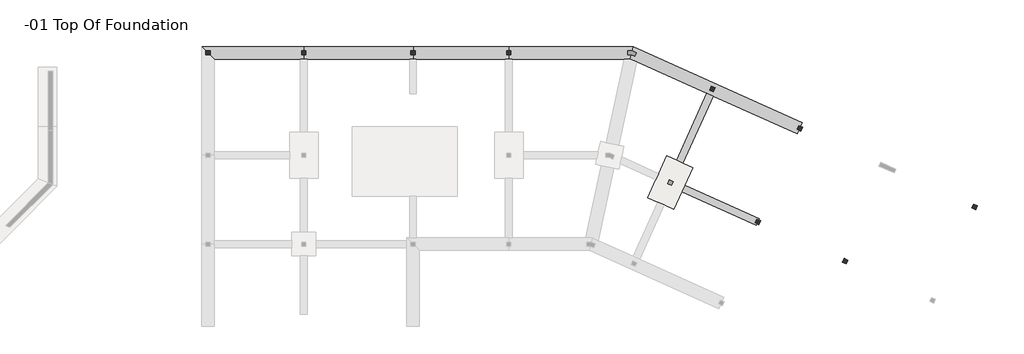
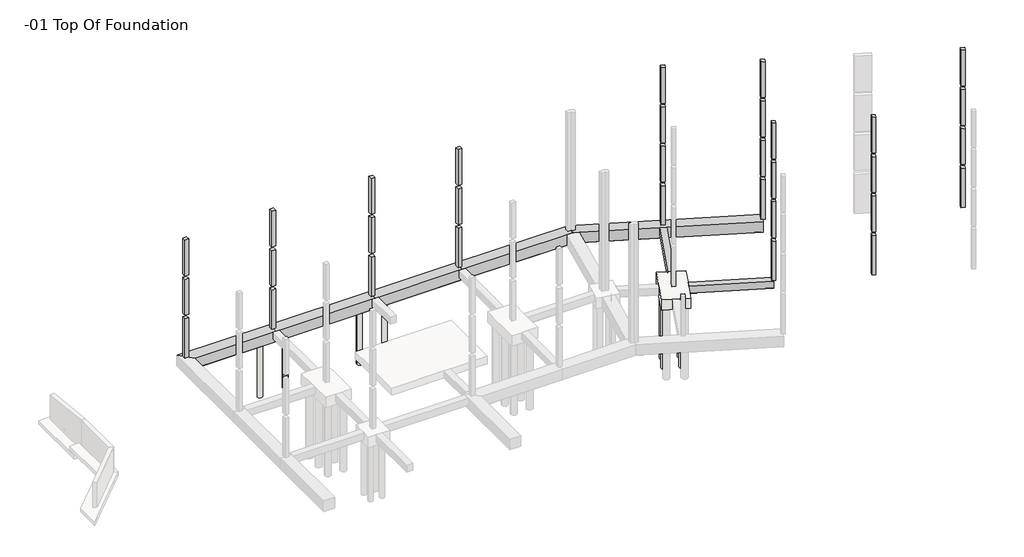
# One storey, part 4 of 4: 9 columns, 9 slabs, 7 beams.
"""IFC4 building model written with IfcOpenShell, lengths in millimetres."""

from ifc_helpers import new_model, si_unit, point, frame, frame_2d, origin, place, context, project, spatial, polyline, circle_curve, trimmed, segment, composite_curve, outline, extrude, faceted_brep, element, save
from ifc_brep_helpers import plane_surface, revolved_surface, advanced_brep

model = new_model("IFC4")

# Units and contexts
model_context = context("Model", 3, world=origin())
ifc_project = project(units=[si_unit("LENGTHUNIT", "METRE", prefix="MILLI")], contexts=[model_context])

# Site, building, storey
site = spatial("IfcSite", under=ifc_project)
building = spatial("IfcBuilding", under=site)
storey = spatial("IfcBuildingStorey", under=building, Name="-01 Top Of Foundation", Elevation=-304.8)

# Beams
placement = place(None, origin())
element("IfcBeam", 1, ObjectType="Ring Beam : 12 x 24", at=placement, inside=storey, context=model_context, shape_type="SweptSolid", body=[
    extrude(outline(polyline([(0.0, 787.4000001), (0.0, 1295.4), (584.2, 1295.4), (609.6, 1270.0), (609.6, 812.8000001), (584.2, 787.4000001), (0.0, 787.4000001)])), frame((35458.8390181, -8392.9653659, -304.8), z_axis=(0.40975609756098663, 0.9121951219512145, 0.0), x_axis=(0.0, 0.0, -1.0)), (0.0, 0.0, 1.0), 5372.1),
])
element("IfcBeam", 2, ObjectType="Ring Beam : 12 x 24", at=placement, inside=storey, context=model_context, shape_type="SweptSolid", body=[
    extrude(outline(polyline([(-7200.8999999, 1066.8), (-6692.9, 1066.8), (-6692.9, 482.6), (-6718.3, 457.2), (-7175.4999999, 457.2), (-7200.8999999, 482.6), (-7200.8999999, 1066.8)])), frame((37370.2819449, -18704.9317073, -1371.6), z_axis=(-0.9121951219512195, 0.40975609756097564, 0.0), x_axis=(-0.40975609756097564, -0.9121951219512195, 0.0)), (0.0, 0.0, 1.0), 5969.0),
])
element("IfcBeam", 3, ObjectType="Ring Beam : 16 x 32", at=placement, inside=storey, context=model_context, shape_type="AdvancedBrep", body=[
    advanced_brep(
    [(7010.4, 457.2, -304.8), (-457.2, 457.2, -304.8), (457.2, -457.2, -304.8), (6756.4, -457.2, -304.8), (7010.4, -457.2, -304.8), (457.2, -457.2, -1193.8), (7010.4, -457.2, -1193.8), (431.8, -431.8, -1219.2), (7010.4, -431.8, -1219.2), (-431.8, 431.8, -1219.2), (7010.4, 431.8, -1219.2), (7010.4, 203.2, -1219.2), (6807.2, 0.0, -1219.2), (7010.4, -203.2, -1219.2), (5791.2, 0.0, -1219.2), (6197.6, 0.0, -1219.2), (-457.2, 457.2, -1193.8), (7010.4, 457.2, -1193.8), (7010.4, -203.2, -762.0), (7010.4, 203.2, -762.0), (6807.2, 0.0, -762.0), (6197.6, 0.0, -762.0), (5791.2, 0.0, -762.0)],
    [
        (0, 1),
        (1, 2),
        (2, 3),
        (3, 4),
        (4, 0),
        (2, 5),
        (5, 6),
        (6, 4),
        (5, 7),
        (7, 8),
        (8, 6),
        (7, 9),
        (9, 10),
        (10, 11),
        (11, 12, circle_curve(frame((7010.4, 0.0, -1219.2), z_axis=(0.0, 0.0, 1.0), x_axis=(1.0, 0.0, 0.0)), 203.2)),
        (12, 13, circle_curve(frame((7010.4, 0.0, -1219.2), z_axis=(0.0, 0.0, 1.0), x_axis=(1.0, 0.0, 0.0)), 203.2)),
        (13, 8),
        (14, 15, circle_curve(frame((5994.4, 0.0, -1219.2), z_axis=(0.0, 0.0, 1.0), x_axis=(1.0, 0.0, 0.0)), 203.2)),
        (15, 14, circle_curve(frame((5994.4, 0.0, -1219.2), z_axis=(0.0, 0.0, 1.0), x_axis=(1.0, 0.0, 0.0)), 203.2)),
        (9, 16),
        (16, 17),
        (17, 10),
        (0, 17),
        (16, 1),
        (13, 18),
        (18, 19),
        (19, 11),
        (20, 19, circle_curve(frame((7010.4, 0.0, -762.0), z_axis=(0.0, 0.0, -1.0), x_axis=(1.0, 0.0, 0.0)), 203.2)),
        (18, 20, circle_curve(frame((7010.4, 0.0, -762.0), z_axis=(0.0, 0.0, -1.0), x_axis=(1.0, 0.0, 0.0)), 203.2)),
        (12, 20),
        (21, 22, circle_curve(frame((5994.4, 0.0, -762.0), z_axis=(0.0, 0.0, -1.0), x_axis=(1.0, 0.0, 0.0)), 203.2)),
        (22, 21, circle_curve(frame((5994.4, 0.0, -762.0), z_axis=(0.0, 0.0, -1.0), x_axis=(1.0, 0.0, 0.0)), 203.2)),
        (21, 15),
        (14, 22),
    ],
    [
        plane_surface(frame((6743.7, 457.2, -304.8), z_axis=(0.0, 0.0, 1.0), x_axis=(-1.0, 0.0, 0.0))),
        plane_surface(frame((6743.7, -457.2, -304.8), z_axis=(0.0, -1.0, 0.0), x_axis=(-1.0, 0.0, 0.0))),
        plane_surface(frame((6743.7, -457.2, -1193.8), z_axis=(0.0, -0.707106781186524, -0.7071067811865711), x_axis=(-1.0, 0.0, 0.0))),
        plane_surface(frame((6743.7, -431.8, -1219.2), z_axis=(0.0, 0.0, -1.0), x_axis=(-1.0, 0.0, 0.0))),
        plane_surface(frame((6743.7, 431.8, -1219.2), z_axis=(0.0, 0.7071067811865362, -0.7071067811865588), x_axis=(-1.0, 0.0, 0.0))),
        plane_surface(frame((6743.7, 457.2, -1193.8), z_axis=(0.0, 1.0, 0.0), x_axis=(-1.0, 0.0, 0.0))),
        plane_surface(frame((457.2, -457.2, -304.8), z_axis=(-0.7071067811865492, -0.7071067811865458, 0.0), x_axis=(0.7071067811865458, -0.7071067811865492, 0.0))),
        plane_surface(frame((7010.4, 0.0, -304.8), z_axis=(1.0, 0.0, 0.0), x_axis=(0.0, 1.0, 0.0))),
        plane_surface(frame((7213.6, 0.0, -762.0), z_axis=(0.0, 0.0, -1.0), x_axis=(0.0, 1.0, 0.0))),
        revolved_surface(polyline([(7213.599999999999, 0.0, -762.0), (7213.599999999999, 0.0, -1219.1999999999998)]), (7010.4, 0.0, -8229.6), (0.0, 0.0, 1.0)),
        plane_surface(frame((6197.6, 0.0, -762.0), z_axis=(0.0, 0.0, -1.0), x_axis=(0.0, 1.0, 0.0))),
        revolved_surface(polyline([(6197.599999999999, 0.0, -762.0), (6197.599999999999, 0.0, -1219.1999999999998)]), (5994.4, 0.0, -5791.2), (0.0, 0.0, 1.0)),
    ],
    [
        (0, [[1, 2, 3, 4, 5]]),
        (1, [[-4, -3, 6, 7, 8]]),
        (2, [[-7, 9, 10, 11]]),
        (3, [[-10, 12, 13, 14, 15, 16, 17], [18, 19]]),
        (4, [[-13, 20, 21, 22]]),
        (5, [[-1, 23, -21, 24]]),
        (6, [[-24, -20, -12, -9, -6, -2]]),
        (7, [[-5, -8, -11, -17, 25, 26, 27, -14, -22, -23]]),
        (8, [[28, -26, 29]]),
        (9, [[-29, -25, -16, 30]]),
        (9, [[-28, -30, -15, -27]]),
        (10, [[31, 32]]),
        (11, [[-31, 33, -18, 34]]),
        (11, [[-32, -34, -19, -33]]),
    ],
),
])
element("IfcBeam", 4, ObjectType="Ring Beam : 16 x 32", at=placement, inside=storey, context=model_context, shape_type="AdvancedBrep", body=[
    advanced_brep(
    [(22009.1, 457.2, -304.8), (14998.7, 457.2, -304.8), (14998.7, -457.2, -304.8), (15252.7, -457.2, -304.8), (21755.1, -457.2, -304.8), (22009.1, -457.2, -304.8), (14998.7, -457.2, -1193.8), (22009.1, -457.2, -1193.8), (14998.7, -431.8, -1219.2), (22009.1, -431.8, -1219.2), (14998.7, -203.2, -1219.2), (15201.9, 0.0, -1219.2), (14998.7, 203.2, -1219.2), (14998.7, 431.8, -1219.2), (22009.1, 431.8, -1219.2), (15811.5, 0.0, -1219.2), (16217.9, 0.0, -1219.2), (14998.7, 457.2, -1193.8), (22009.1, 457.2, -1193.8), (14998.7, 203.2, -762.0), (14998.7, -203.2, -762.0), (15201.9, 0.0, -762.0), (16217.9, 0.0, -762.0), (15811.5, 0.0, -762.0)],
    [
        (0, 1),
        (1, 2),
        (2, 3),
        (3, 4),
        (4, 5),
        (5, 0),
        (2, 6),
        (6, 7),
        (7, 5),
        (6, 8),
        (8, 9),
        (9, 7),
        (8, 10),
        (10, 11, circle_curve(frame((14998.7, 0.0, -1219.2), z_axis=(0.0, 0.0, 1.0), x_axis=(1.0, 0.0, 0.0)), 203.2)),
        (11, 12, circle_curve(frame((14998.7, 0.0, -1219.2), z_axis=(0.0, 0.0, 1.0), x_axis=(1.0, 0.0, 0.0)), 203.2)),
        (12, 13),
        (13, 14),
        (14, 9),
        (15, 16, circle_curve(frame((16014.7, 0.0, -1219.2), z_axis=(0.0, 0.0, 1.0), x_axis=(1.0, 0.0, 0.0)), 203.2)),
        (16, 15, circle_curve(frame((16014.7, 0.0, -1219.2), z_axis=(0.0, 0.0, 1.0), x_axis=(1.0, 0.0, 0.0)), 203.2)),
        (13, 17),
        (17, 18),
        (18, 14),
        (0, 18),
        (17, 1),
        (12, 19),
        (19, 20),
        (20, 10),
        (19, 21, circle_curve(frame((14998.7, 0.0, -762.0), z_axis=(0.0, 0.0, -1.0), x_axis=(1.0, 0.0, 0.0)), 203.2)),
        (21, 20, circle_curve(frame((14998.7, 0.0, -762.0), z_axis=(0.0, 0.0, -1.0), x_axis=(1.0, 0.0, 0.0)), 203.2)),
        (21, 11),
        (22, 23, circle_curve(frame((16014.7, 0.0, -762.0), z_axis=(0.0, 0.0, -1.0), x_axis=(1.0, 0.0, 0.0)), 203.2)),
        (23, 22, circle_curve(frame((16014.7, 0.0, -762.0), z_axis=(0.0, 0.0, -1.0), x_axis=(1.0, 0.0, 0.0)), 203.2)),
        (22, 16),
        (15, 23),
    ],
    [
        plane_surface(frame((21742.4, 457.2, -304.8), z_axis=(0.0, 0.0, 1.0), x_axis=(-1.0, 0.0, 0.0))),
        plane_surface(frame((21742.4, -457.2, -304.8), z_axis=(0.0, -1.0, 0.0), x_axis=(-1.0, 0.0, 0.0))),
        plane_surface(frame((21742.4, -457.2, -1193.8), z_axis=(0.0, -0.707106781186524, -0.7071067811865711), x_axis=(-1.0, 0.0, 0.0))),
        plane_surface(frame((21742.4, -431.8, -1219.2), z_axis=(0.0, 0.0, -1.0), x_axis=(-1.0, 0.0, 0.0))),
        plane_surface(frame((21742.4, 431.8, -1219.2), z_axis=(0.0, 0.7071067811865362, -0.7071067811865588), x_axis=(-1.0, 0.0, 0.0))),
        plane_surface(frame((21742.4, 457.2, -1193.8), z_axis=(0.0, 1.0, 0.0), x_axis=(-1.0, 0.0, 0.0))),
        plane_surface(frame((14998.7, 0.0, -304.8), z_axis=(-1.0, 0.0, 0.0), x_axis=(0.0, -1.0, 0.0))),
        plane_surface(frame((22009.1, 0.0, -304.8), z_axis=(1.0, 0.0, 0.0), x_axis=(0.0, 1.0, 0.0))),
        plane_surface(frame((15201.9, 0.0, -762.0), z_axis=(0.0, 0.0, -1.0), x_axis=(0.0, 1.0, 0.0))),
        revolved_surface(polyline([(15201.900000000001, 0.0, -762.0), (15201.900000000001, 0.0, -1219.1999999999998)]), (14998.7, 0.0, -8229.6), (0.0, 0.0, 1.0)),
        plane_surface(frame((16217.9, 0.0, -762.0), z_axis=(0.0, 0.0, -1.0), x_axis=(0.0, 1.0, 0.0))),
        revolved_surface(polyline([(16217.900000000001, 0.0, -762.0), (16217.900000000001, 0.0, -1219.1999999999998)]), (16014.7, 0.0, -5791.2), (0.0, 0.0, 1.0)),
    ],
    [
        (0, [[1, 2, 3, 4, 5, 6]]),
        (1, [[-5, -4, -3, 7, 8, 9]]),
        (2, [[-8, 10, 11, 12]]),
        (3, [[-11, 13, 14, 15, 16, 17, 18], [19, 20]]),
        (4, [[-17, 21, 22, 23]]),
        (5, [[-1, 24, -22, 25]]),
        (6, [[-25, -21, -16, 26, 27, 28, -13, -10, -7, -2]]),
        (7, [[-6, -9, -12, -18, -23, -24]]),
        (8, [[29, 30, -27]]),
        (9, [[-30, 31, -14, -28]]),
        (9, [[-29, -26, -15, -31]]),
        (10, [[32, 33]]),
        (11, [[-32, 34, -19, 35]]),
        (11, [[-33, -35, -20, -34]]),
    ],
),
])
element("IfcBeam", 5, ObjectType="Ring Beam : 16 x 32", at=placement, inside=storey, context=model_context, shape_type="Brep", body=[
    faceted_brep([(31098.7387393, 457.2, -304.8), (31033.4244536, 152.4, -304.8), (30968.1131019, -152.386308, -304.8), (30902.7958822, -457.2, -304.8), (31345.5946226, -656.104247, -304.8), (36478.4321888, -2961.7639024, -304.8), (36941.8273107, -3169.92, -304.8), (43104.9824327, -5938.3960976, -304.8), (43375.5853595, -5335.982439, -304.8), (43479.6634083, -5104.284878, -304.8), (30902.7958822, -457.2, -1193.8), (31345.5946226, -656.104247, -1193.8), (43104.9824327, -5938.3960976, -1193.8), (30908.2387393, -431.8, -1219.2), (31327.3417353, -620.0601693, -1219.2), (43115.3902376, -5915.2263415, -1219.2), (31093.2958822, 431.8, -1219.2), (43469.2556034, -5127.4546341, -1219.2), (31098.7387393, 457.2, -1193.8), (43479.6634083, -5104.284878, -1193.8)], [[[0, 1, 2, 3, 4, 5, 6, 7, 8, 9]], [[3, 10, 11, 12, 7, 6, 5, 4]], [[10, 13, 14, 15, 12, 11]], [[13, 16, 17, 15, 14]], [[16, 18, 19, 17]], [[18, 0, 9, 19]], [[0, 18, 16, 13, 10, 3, 2, 1]], [[7, 12, 15, 17, 19, 9, 8]]]),
])
element("IfcBeam", 6, ObjectType="Ring Beam : 16 x 32", at=placement, inside=storey, context=model_context, shape_type="AdvancedBrep", body=[
    advanced_brep(
    [(14998.7, 457.2, -304.8), (7010.4, 457.2, -304.8), (7010.4, -457.2, -304.8), (7264.4, -457.2, -304.8), (14744.7, -457.2, -304.8), (14998.7, -457.2, -304.8), (7010.4, -457.2, -1193.8), (14998.7, -457.2, -1193.8), (7010.4, -431.8, -1219.2), (14998.7, -431.8, -1219.2), (7010.4, -203.2, -1219.2), (7213.6, 0.0, -1219.2), (7010.4, 203.2, -1219.2), (7010.4, 431.8, -1219.2), (14998.7, 431.8, -1219.2), (14998.7, 203.2, -1219.2), (14795.5, 0.0, -1219.2), (14998.7, -203.2, -1219.2), (13779.5, 0.0, -1219.2), (14185.9, 0.0, -1219.2), (7823.2, 0.0, -1219.2), (8229.6, 0.0, -1219.2), (7010.4, 457.2, -1193.8), (14998.7, 457.2, -1193.8), (14998.7, -203.2, -762.0), (14998.7, 203.2, -762.0), (7010.4, 203.2, -762.0), (7010.4, -203.2, -762.0), (14795.5, 0.0, -762.0), (14185.9, 0.0, -762.0), (13779.5, 0.0, -762.0), (7213.6, 0.0, -762.0), (8229.6, 0.0, -762.0), (7823.2, 0.0, -762.0)],
    [
        (0, 1),
        (1, 2),
        (2, 3),
        (3, 4),
        (4, 5),
        (5, 0),
        (2, 6),
        (6, 7),
        (7, 5),
        (6, 8),
        (8, 9),
        (9, 7),
        (8, 10),
        (10, 11, circle_curve(frame((7010.4, 0.0, -1219.2), z_axis=(0.0, 0.0, 1.0), x_axis=(1.0, 0.0, 0.0)), 203.2)),
        (11, 12, circle_curve(frame((7010.4, 0.0, -1219.2), z_axis=(0.0, 0.0, 1.0), x_axis=(1.0, 0.0, 0.0)), 203.2)),
        (12, 13),
        (13, 14),
        (14, 15),
        (15, 16, circle_curve(frame((14998.7, 0.0, -1219.2), z_axis=(0.0, 0.0, 1.0), x_axis=(1.0, 0.0, 0.0)), 203.2)),
        (16, 17, circle_curve(frame((14998.7, 0.0, -1219.2), z_axis=(0.0, 0.0, 1.0), x_axis=(1.0, 0.0, 0.0)), 203.2)),
        (17, 9),
        (18, 19, circle_curve(frame((13982.7, 0.0, -1219.2), z_axis=(0.0, 0.0, 1.0), x_axis=(1.0, 0.0, 0.0)), 203.2)),
        (19, 18, circle_curve(frame((13982.7, 0.0, -1219.2), z_axis=(0.0, 0.0, 1.0), x_axis=(1.0, 0.0, 0.0)), 203.2)),
        (20, 21, circle_curve(frame((8026.4, 0.0, -1219.2), z_axis=(0.0, 0.0, 1.0), x_axis=(1.0, 0.0, 0.0)), 203.2)),
        (21, 20, circle_curve(frame((8026.4, 0.0, -1219.2), z_axis=(0.0, 0.0, 1.0), x_axis=(1.0, 0.0, 0.0)), 203.2)),
        (13, 22),
        (22, 23),
        (23, 14),
        (0, 23),
        (22, 1),
        (17, 24),
        (24, 25),
        (25, 15),
        (12, 26),
        (26, 27),
        (27, 10),
        (28, 25, circle_curve(frame((14998.7, 0.0, -762.0), z_axis=(0.0, 0.0, -1.0), x_axis=(1.0, 0.0, 0.0)), 203.2)),
        (24, 28, circle_curve(frame((14998.7, 0.0, -762.0), z_axis=(0.0, 0.0, -1.0), x_axis=(1.0, 0.0, 0.0)), 203.2)),
        (16, 28),
        (29, 30, circle_curve(frame((13982.7, 0.0, -762.0), z_axis=(0.0, 0.0, -1.0), x_axis=(1.0, 0.0, 0.0)), 203.2)),
        (30, 29, circle_curve(frame((13982.7, 0.0, -762.0), z_axis=(0.0, 0.0, -1.0), x_axis=(1.0, 0.0, 0.0)), 203.2)),
        (29, 19),
        (18, 30),
        (26, 31, circle_curve(frame((7010.4, 0.0, -762.0), z_axis=(0.0, 0.0, -1.0), x_axis=(1.0, 0.0, 0.0)), 203.2)),
        (31, 27, circle_curve(frame((7010.4, 0.0, -762.0), z_axis=(0.0, 0.0, -1.0), x_axis=(1.0, 0.0, 0.0)), 203.2)),
        (31, 11),
        (32, 33, circle_curve(frame((8026.4, 0.0, -762.0), z_axis=(0.0, 0.0, -1.0), x_axis=(1.0, 0.0, 0.0)), 203.2)),
        (33, 32, circle_curve(frame((8026.4, 0.0, -762.0), z_axis=(0.0, 0.0, -1.0), x_axis=(1.0, 0.0, 0.0)), 203.2)),
        (32, 21),
        (20, 33),
    ],
    [
        plane_surface(frame((14732.0, 457.2, -304.8), z_axis=(0.0, 0.0, 1.0), x_axis=(-1.0, 0.0, 0.0))),
        plane_surface(frame((14732.0, -457.2, -304.8), z_axis=(0.0, -1.0, 0.0), x_axis=(-1.0, 0.0, 0.0))),
        plane_surface(frame((14732.0, -457.2, -1193.8), z_axis=(0.0, -0.707106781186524, -0.7071067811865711), x_axis=(-1.0, 0.0, 0.0))),
        plane_surface(frame((14732.0, -431.8, -1219.2), z_axis=(0.0, 0.0, -1.0), x_axis=(-1.0, 0.0, 0.0))),
        plane_surface(frame((14732.0, 431.8, -1219.2), z_axis=(0.0, 0.7071067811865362, -0.7071067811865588), x_axis=(-1.0, 0.0, 0.0))),
        plane_surface(frame((14732.0, 457.2, -1193.8), z_axis=(0.0, 1.0, 0.0), x_axis=(-1.0, 0.0, 0.0))),
        plane_surface(frame((14998.7, 0.0, -304.8), z_axis=(1.0, 0.0, 0.0), x_axis=(0.0, 1.0, 0.0))),
        plane_surface(frame((7010.4, 0.0, -304.8), z_axis=(-1.0, 0.0, 0.0), x_axis=(0.0, -1.0, 0.0))),
        plane_surface(frame((15201.9, 0.0, -762.0), z_axis=(0.0, 0.0, -1.0), x_axis=(0.0, 1.0, 0.0))),
        revolved_surface(polyline([(15201.900000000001, 0.0, -762.0), (15201.900000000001, 0.0, -1219.1999999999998)]), (14998.7, 0.0, -8229.6), (0.0, 0.0, 1.0)),
        plane_surface(frame((14185.9, 0.0, -762.0), z_axis=(0.0, 0.0, -1.0), x_axis=(0.0, 1.0, 0.0))),
        revolved_surface(polyline([(14185.900000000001, 0.0, -762.0), (14185.900000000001, 0.0, -1219.1999999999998)]), (13982.7, 0.0, -5791.2), (0.0, 0.0, 1.0)),
        plane_surface(frame((7213.6, 0.0, -762.0), z_axis=(0.0, 0.0, -1.0), x_axis=(0.0, 1.0, 0.0))),
        revolved_surface(polyline([(7213.599999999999, 0.0, -762.0), (7213.599999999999, 0.0, -1219.1999999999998)]), (7010.4, 0.0, -8229.6), (0.0, 0.0, 1.0)),
        plane_surface(frame((8229.6, 0.0, -762.0), z_axis=(0.0, 0.0, -1.0), x_axis=(0.0, 1.0, 0.0))),
        revolved_surface(polyline([(8229.6, 0.0, -762.0), (8229.6, 0.0, -1219.1999999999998)]), (8026.4, 0.0, -5791.2), (0.0, 0.0, 1.0)),
    ],
    [
        (0, [[1, 2, 3, 4, 5, 6]]),
        (1, [[-5, -4, -3, 7, 8, 9]]),
        (2, [[-8, 10, 11, 12]]),
        (3, [[-11, 13, 14, 15, 16, 17, 18, 19, 20, 21], [22, 23], [24, 25]]),
        (4, [[-17, 26, 27, 28]]),
        (5, [[-1, 29, -27, 30]]),
        (6, [[-6, -9, -12, -21, 31, 32, 33, -18, -28, -29]]),
        (7, [[-30, -26, -16, 34, 35, 36, -13, -10, -7, -2]]),
        (8, [[37, -32, 38]]),
        (9, [[-38, -31, -20, 39]]),
        (9, [[-37, -39, -19, -33]]),
        (10, [[40, 41]]),
        (11, [[-40, 42, -22, 43]]),
        (11, [[-41, -43, -23, -42]]),
        (12, [[44, 45, -35]]),
        (13, [[-45, 46, -14, -36]]),
        (13, [[-44, -34, -15, -46]]),
        (14, [[47, 48]]),
        (15, [[-47, 49, -24, 50]]),
        (15, [[-48, -50, -25, -49]]),
    ],
),
])
element("IfcBeam", 7, ObjectType="Ring Beam : 16 x 32", at=placement, inside=storey, context=model_context, shape_type="Brep", body=[
    faceted_brep([(30902.7958822, -457.2, -304.8), (31098.7387393, 457.2, -304.8), (22009.1, 457.2, -304.8), (22009.1, -457.2, -304.8), (22263.1, -457.2, -304.8), (30453.0587055, -457.2, -304.8), (30902.7958822, -457.2, -1193.8), (22009.1, -457.2, -1193.8), (30453.0587055, -457.2, -1193.8), (30908.2387393, -431.8, -1219.2), (22009.1, -431.8, -1219.2), (30484.4781809, -431.8, -1219.2), (31093.2958822, 431.8, -1219.2), (22009.1, 431.8, -1219.2), (31098.7387393, 457.2, -1193.8), (22009.1, 457.2, -1193.8)], [[[0, 1, 2, 3, 4, 5]], [[6, 0, 5, 4, 3, 7, 8]], [[9, 6, 8, 7, 10, 11]], [[12, 9, 11, 10, 13]], [[14, 12, 13, 15]], [[1, 14, 15, 2]], [[1, 0, 6, 9, 12, 14]], [[2, 15, 13, 10, 7, 3]]]),
])

# Columns
element("IfcColumn", 8, ObjectType="Concrete-Rectangular-Column : 12 x 12", at=placement, inside=storey, context=model_context, shape_type="SweptSolid", body=[
    extrude(outline(polyline([(152.4, 152.4), (152.4, -152.4), (-152.4, -152.4), (-152.4, 152.4), (152.4, 152.4)])), frame((0.0, 0.0, -304.8), z_axis=(0.0, 0.0, 1.0), x_axis=(1.0, 0.0, 0.0)), (0.0, 0.0, 1.0), 3352.8),
    extrude(outline(polyline([(152.4, 152.4), (152.4, -152.4), (-152.4, -152.4), (-152.4, 152.4), (152.4, 152.4)])), frame((0.0, 0.0, 6705.6), z_axis=(0.0, 0.0, 1.0), x_axis=(1.0, 0.0, 0.0)), (0.0, 0.0, 1.0), 3048.0),
    extrude(outline(polyline([(152.4, 152.4), (152.4, -152.4), (-152.4, -152.4), (-152.4, 152.4), (152.4, 152.4)])), frame((0.0, 0.0, 3352.8), z_axis=(0.0, 0.0, 1.0), x_axis=(1.0, 0.0, 0.0)), (0.0, 0.0, 1.0), 3048.0),
])
element("IfcColumn", 9, ObjectType="Concrete-Rectangular-Column : 12 x 12", at=placement, inside=storey, context=model_context, shape_type="SweptSolid", body=[
    extrude(outline(polyline([(7162.8, 152.4), (7162.8, -152.4), (6858.0, -152.4), (6858.0, 152.4), (7162.8, 152.4)])), frame((0.0, 0.0, -304.8), z_axis=(0.0, 0.0, 1.0), x_axis=(1.0, 0.0, 0.0)), (0.0, 0.0, 1.0), 3352.8),
    extrude(outline(polyline([(7162.8, 152.4), (7162.8, -152.4), (6858.0, -152.4), (6858.0, 152.4), (7162.8, 152.4)])), frame((0.0, 0.0, 6705.6), z_axis=(0.0, 0.0, 1.0), x_axis=(1.0, 0.0, 0.0)), (0.0, 0.0, 1.0), 3048.0),
    extrude(outline(polyline([(7162.8, 152.4), (7162.8, -152.4), (6858.0, -152.4), (6858.0, 152.4), (7162.8, 152.4)])), frame((0.0, 0.0, 3352.8), z_axis=(0.0, 0.0, 1.0), x_axis=(1.0, 0.0, 0.0)), (0.0, 0.0, 1.0), 3048.0),
])
element("IfcColumn", 10, ObjectType="Concrete-Rectangular-Column : 12 x 12", at=placement, inside=storey, context=model_context, shape_type="SweptSolid", body=[
    extrude(outline(polyline([(15151.1, 152.4), (15151.1, -152.4), (14846.3, -152.4), (14846.3, 152.4), (15151.1, 152.4)])), frame((0.0, 0.0, -304.8), z_axis=(0.0, 0.0, 1.0), x_axis=(1.0, 0.0, 0.0)), (0.0, 0.0, 1.0), 3352.8),
    extrude(outline(polyline([(15151.1, 152.4), (15151.1, -152.4), (14846.3, -152.4), (14846.3, 152.4), (15151.1, 152.4)])), frame((0.0, 0.0, 6705.6), z_axis=(0.0, 0.0, 1.0), x_axis=(1.0, 0.0, 0.0)), (0.0, 0.0, 1.0), 3048.0),
    extrude(outline(polyline([(15151.1, 152.4), (15151.1, -152.4), (14846.3, -152.4), (14846.3, 152.4), (15151.1, 152.4)])), frame((0.0, 0.0, 3352.8), z_axis=(0.0, 0.0, 1.0), x_axis=(1.0, 0.0, 0.0)), (0.0, 0.0, 1.0), 3048.0),
])
element("IfcColumn", 11, ObjectType="Concrete-Rectangular-Column : 12 x 12", at=placement, inside=storey, context=model_context, shape_type="SweptSolid", body=[
    extrude(outline(polyline([(22161.5, 152.4), (22161.5, -152.4), (21856.7, -152.4), (21856.7, 152.4), (22161.5, 152.4)])), frame((0.0, 0.0, -304.8), z_axis=(0.0, 0.0, 1.0), x_axis=(1.0, 0.0, 0.0)), (0.0, 0.0, 1.0), 3352.8),
    extrude(outline(polyline([(22161.5, 152.4), (22161.5, -152.4), (21856.7, -152.4), (21856.7, 152.4), (22161.5, 152.4)])), frame((0.0, 0.0, 6705.6), z_axis=(0.0, 0.0, 1.0), x_axis=(1.0, 0.0, 0.0)), (0.0, 0.0, 1.0), 3048.0),
    extrude(outline(polyline([(22161.5, 152.4), (22161.5, -152.4), (21856.7, -152.4), (21856.7, 152.4), (22161.5, 152.4)])), frame((0.0, 0.0, 3352.8), z_axis=(0.0, 0.0, 1.0), x_axis=(1.0, 0.0, 0.0)), (0.0, 0.0, 1.0), 3048.0),
])
element("IfcColumn", 12, ObjectType="Concrete-Rectangular-Column : 12 x 12", at=placement, inside=storey, context=model_context, shape_type="SweptSolid", body=[
    extrude(outline(polyline([(36820.8985303, -2447.3209756), (37098.9356034, -2572.2146341), (36974.0419449, -2850.2517073), (36696.0048717, -2725.3580488), (36820.8985303, -2447.3209756)])), frame((0.0, 0.0, -304.8), z_axis=(0.0, 0.0, 1.0), x_axis=(1.0, 0.0, 0.0)), (0.0, 0.0, 1.0), 3352.8),
    extrude(outline(polyline([(36820.8985303, -2447.3209756), (37098.9356034, -2572.2146341), (36974.0419449, -2850.2517073), (36696.0048717, -2725.3580488), (36820.8985303, -2447.3209756)])), frame((0.0, 0.0, 10058.4), z_axis=(0.0, 0.0, 1.0), x_axis=(1.0, 0.0, 0.0)), (0.0, 0.0, 1.0), 3048.0),
    extrude(outline(polyline([(36820.8985303, -2447.3209756), (37098.9356034, -2572.2146341), (36974.0419449, -2850.2517073), (36696.0048717, -2725.3580488), (36820.8985303, -2447.3209756)])), frame((0.0, 0.0, 3352.8), z_axis=(0.0, 0.0, 1.0), x_axis=(1.0, 0.0, 0.0)), (0.0, 0.0, 1.0), 3048.0),
    extrude(outline(polyline([(36820.8985303, -2447.3209756), (37098.9356034, -2572.2146341), (36974.0419449, -2850.2517073), (36696.0048717, -2725.3580488), (36820.8985303, -2447.3209756)])), frame((0.0, 0.0, 6705.6), z_axis=(0.0, 0.0, 1.0), x_axis=(1.0, 0.0, 0.0)), (0.0, 0.0, 1.0), 3048.0),
])
element("IfcColumn", 13, ObjectType="Concrete-Rectangular-Column : 12 x 12", at=placement, inside=storey, context=model_context, shape_type="SweptSolid", body=[
    extrude(outline(polyline([(43215.7512132, -5319.875122), (43493.7882864, -5444.7687805), (43368.8946278, -5722.8058537), (43090.8575546, -5597.9121951), (43215.7512132, -5319.875122)])), frame((0.0, 0.0, -304.8), z_axis=(0.0, 0.0, 1.0), x_axis=(1.0, 0.0, 0.0)), (0.0, 0.0, 1.0), 3352.8),
    extrude(outline(polyline([(43215.7512132, -5319.875122), (43493.7882864, -5444.7687805), (43368.8946278, -5722.8058537), (43090.8575546, -5597.9121951), (43215.7512132, -5319.875122)])), frame((0.0, 0.0, 10058.4), z_axis=(0.0, 0.0, 1.0), x_axis=(1.0, 0.0, 0.0)), (0.0, 0.0, 1.0), 3048.0),
    extrude(outline(polyline([(43215.7512132, -5319.875122), (43493.7882864, -5444.7687805), (43368.8946278, -5722.8058537), (43090.8575546, -5597.9121951), (43215.7512132, -5319.875122)])), frame((0.0, 0.0, 3352.8), z_axis=(0.0, 0.0, 1.0), x_axis=(1.0, 0.0, 0.0)), (0.0, 0.0, 1.0), 3048.0),
    extrude(outline(polyline([(43215.7512132, -5319.875122), (43493.7882864, -5444.7687805), (43368.8946278, -5722.8058537), (43090.8575546, -5597.9121951), (43215.7512132, -5319.875122)])), frame((0.0, 0.0, 6705.6), z_axis=(0.0, 0.0, 1.0), x_axis=(1.0, 0.0, 0.0)), (0.0, 0.0, 1.0), 3048.0),
])
element("IfcColumn", 14, ObjectType="Concrete-Rectangular-Column : 12 x 12", at=placement, inside=storey, context=model_context, shape_type="Brep", body=[
    faceted_brep([(56005.456579, -11064.9834146, -304.8), (56283.4936522, -11189.8770732, -304.8), (56158.5999937, -11467.9141463, -304.8), (55880.5629205, -11343.0204878, -304.8), (56283.4936522, -11189.8770732, 3048.0), (56005.456579, -11064.9834146, 3048.0), (55880.5629205, -11343.0204878, 3048.0), (56158.5999937, -11467.9141463, 3048.0), (56005.456579, -11064.9834146, 0.0), (56283.4936522, -11189.8770732, 0.0), (56158.5999937, -11467.9141463, 0.0), (55880.5629205, -11343.0204878, 0.0)], [[[0, 1, 2, 3]], [[4, 5, 6, 7]], [[1, 0, 8, 5, 4, 9]], [[2, 1, 9, 4, 7, 10]], [[3, 2, 10, 7, 6, 11]], [[0, 3, 11, 6, 5, 8]]]),
    faceted_brep([(56283.4936522, -11189.8770732, 10058.4), (56005.456579, -11064.9834146, 10058.4), (56005.456579, -11064.9834146, 13106.4), (56283.4936522, -11189.8770732, 13106.4), (56158.5999937, -11467.9141463, 10058.4), (56158.5999937, -11467.9141463, 13106.4), (55880.5629205, -11343.0204878, 10058.4), (55880.5629205, -11343.0204878, 13106.4)], [[[0, 1, 2, 3]], [[4, 0, 3, 5]], [[6, 4, 5, 7]], [[1, 6, 7, 2]], [[1, 0, 4, 6]], [[3, 2, 7, 5]]]),
    faceted_brep([(56005.456579, -11064.9834146, 3352.8), (56283.4936522, -11189.8770732, 3352.8), (56158.5999937, -11467.9141463, 3352.8), (55880.5629205, -11343.0204878, 3352.8), (56283.4936522, -11189.8770732, 6400.8), (56005.456579, -11064.9834146, 6400.8), (55880.5629205, -11343.0204878, 6400.8), (56158.5999937, -11467.9141463, 6400.8)], [[[0, 1, 2, 3]], [[4, 5, 6, 7]], [[1, 0, 5, 4]], [[2, 1, 4, 7]], [[3, 2, 7, 6]], [[0, 3, 6, 5]]]),
    faceted_brep([(56005.456579, -11064.9834146, 6705.6), (56283.4936522, -11189.8770732, 6705.6), (56158.5999937, -11467.9141463, 6705.6), (55880.5629205, -11343.0204878, 6705.6), (56283.4936522, -11189.8770732, 9753.6), (56005.456579, -11064.9834146, 9753.6), (55880.5629205, -11343.0204878, 9753.6), (56158.5999937, -11467.9141463, 9753.6)], [[[0, 1, 2, 3]], [[4, 5, 6, 7]], [[1, 0, 5, 4]], [[2, 1, 4, 7]], [[3, 2, 7, 6]], [[0, 3, 6, 5]]]),
])
element("IfcColumn", 15, ObjectType="Concrete-Rectangular-Column : 12 x 12", at=placement, inside=storey, context=model_context, shape_type="SweptSolid", body=[
    extrude(outline(polyline([(40140.2448717, -12166.5380488), (40418.2819449, -12291.4317073), (40293.3882864, -12569.4687805), (40015.3512132, -12444.575122), (40140.2448717, -12166.5380488)])), frame((0.0, 0.0, -304.8), z_axis=(0.0, 0.0, 1.0), x_axis=(1.0, 0.0, 0.0)), (0.0, 0.0, 1.0), 3352.8),
    extrude(outline(polyline([(40140.2448717, -12166.5380488), (40418.2819449, -12291.4317073), (40293.3882864, -12569.4687805), (40015.3512132, -12444.575122), (40140.2448717, -12166.5380488)])), frame((0.0, 0.0, 10058.4), z_axis=(0.0, 0.0, 1.0), x_axis=(1.0, 0.0, 0.0)), (0.0, 0.0, 1.0), 3048.0),
    extrude(outline(polyline([(40140.2448717, -12166.5380488), (40418.2819449, -12291.4317073), (40293.3882864, -12569.4687805), (40015.3512132, -12444.575122), (40140.2448717, -12166.5380488)])), frame((0.0, 0.0, 3352.8), z_axis=(0.0, 0.0, 1.0), x_axis=(1.0, 0.0, 0.0)), (0.0, 0.0, 1.0), 3048.0),
    extrude(outline(polyline([(40140.2448717, -12166.5380488), (40418.2819449, -12291.4317073), (40293.3882864, -12569.4687805), (40015.3512132, -12444.575122), (40140.2448717, -12166.5380488)])), frame((0.0, 0.0, 6705.6), z_axis=(0.0, 0.0, 1.0), x_axis=(1.0, 0.0, 0.0)), (0.0, 0.0, 1.0), 3048.0),
])
element("IfcColumn", 16, ObjectType="Concrete-Rectangular-Column : 12 x 12", at=placement, inside=storey, context=model_context, shape_type="SweptSolid", body=[
    extrude(outline(polyline([(46535.0975546, -15039.0921951), (46813.1346278, -15163.9858537), (46688.2409693, -15442.0229268), (46410.2038961, -15317.1292683), (46535.0975546, -15039.0921951)])), frame((0.0, 0.0, -304.8), z_axis=(0.0, 0.0, 1.0), x_axis=(1.0, 0.0, 0.0)), (0.0, 0.0, 1.0), 3352.8),
    extrude(outline(polyline([(46535.0975546, -15039.0921951), (46813.1346278, -15163.9858537), (46688.2409693, -15442.0229268), (46410.2038961, -15317.1292683), (46535.0975546, -15039.0921951)])), frame((0.0, 0.0, 10058.4), z_axis=(0.0, 0.0, 1.0), x_axis=(1.0, 0.0, 0.0)), (0.0, 0.0, 1.0), 3048.0),
    extrude(outline(polyline([(46535.0975546, -15039.0921951), (46813.1346278, -15163.9858537), (46688.2409693, -15442.0229268), (46410.2038961, -15317.1292683), (46535.0975546, -15039.0921951)])), frame((0.0, 0.0, 3352.8), z_axis=(0.0, 0.0, 1.0), x_axis=(1.0, 0.0, 0.0)), (0.0, 0.0, 1.0), 3048.0),
    extrude(outline(polyline([(46535.0975546, -15039.0921951), (46813.1346278, -15163.9858537), (46688.2409693, -15442.0229268), (46410.2038961, -15317.1292683), (46535.0975546, -15039.0921951)])), frame((0.0, 0.0, 6705.6), z_axis=(0.0, 0.0, 1.0), x_axis=(1.0, 0.0, 0.0)), (0.0, 0.0, 1.0), 3048.0),
])

# Slabs
element("IfcSlab", 17, ObjectType="Pile Cap-6 Pile : 132\"x82\"x35\"", at=placement, inside=storey, context=model_context, shape_type="Brep", body=[
    faceted_brep([(35458.8390181, -8392.9653659, -304.8), (34740.576579, -8070.3234146, -304.8), (34277.1814571, -7862.1673171, -304.8), (33558.9190181, -7539.5253659, -304.8), (32979.0776096, -8830.3627872, -304.8), (32770.921512, -9293.7579091, -304.8), (32185.0887742, -10597.9331707, -304.8), (32903.3512132, -10920.575122, -304.8), (33366.7463351, -11128.7312195, -304.8), (34085.0087742, -11451.3731707, -304.8), (34667.8458473, -10153.8668293, -304.8), (34876.0019449, -9690.4717073, -304.8), (35458.8390181, -8392.9653659, -1193.8), (34085.0087742, -11451.3731707, -1193.8), (32185.0887742, -10597.9331707, -1193.8), (33558.9190181, -7539.5253659, -1193.8)], [[[0, 1, 2, 3, 4, 5, 6, 7, 8, 9, 10, 11]], [[12, 13, 14, 15]], [[3, 2, 1, 0, 12, 15]], [[6, 5, 4, 3, 15, 14]], [[9, 8, 7, 6, 14, 13]], [[0, 11, 10, 9, 13, 12]]]),
])
element("IfcSlab", 18, ObjectType="Round In Situ Concrete Pile : 16\" Diameter 16'", at=placement, inside=storey, context=model_context, shape_type="SweptSolid", body=[
    extrude(outline(composite_curve([segment(trimmed(circle_curve(frame_2d((16014.7, 0.0)), 203.2), [point((15811.5, 0.0))], [point((16217.9, 0.0))], False, "CARTESIAN"), True, "CONTINUOUS"), segment(trimmed(circle_curve(frame_2d((16014.7, 0.0)), 203.2), [point((16217.9, 0.0))], [point((15811.5, 0.0))], False, "CARTESIAN"), True, "CONTINUOUS")], self_intersect=False)), frame((0.0, 0.0, -5791.2), z_axis=(0.0, 0.0, 1.0), x_axis=(1.0, 0.0, 0.0)), (0.0, 0.0, 1.0), 5029.2),
])
element("IfcSlab", 19, ObjectType="Round In Situ Concrete Pile : 16\" Diameter 16'", at=placement, inside=storey, context=model_context, shape_type="SweptSolid", body=[
    extrude(outline(composite_curve([segment(trimmed(circle_curve(frame_2d((13982.7, 0.0)), 203.2), [point((13779.5, 0.0))], [point((14185.9, 0.0))], False, "CARTESIAN"), True, "CONTINUOUS"), segment(trimmed(circle_curve(frame_2d((13982.7, 0.0)), 203.2), [point((14185.9, 0.0))], [point((13779.5, 0.0))], False, "CARTESIAN"), True, "CONTINUOUS")], self_intersect=False)), frame((0.0, 0.0, -5791.2), z_axis=(0.0, 0.0, 1.0), x_axis=(1.0, 0.0, 0.0)), (0.0, 0.0, 1.0), 5029.2),
])
element("IfcSlab", 20, ObjectType="Round In Situ Concrete Pile : 16\" Diameter 16'", at=placement, inside=storey, context=model_context, shape_type="SweptSolid", body=[
    extrude(outline(composite_curve([segment(trimmed(circle_curve(frame_2d((8026.4, 0.0)), 203.2), [point((7823.2, 0.0))], [point((8229.6, 0.0))], False, "CARTESIAN"), True, "CONTINUOUS"), segment(trimmed(circle_curve(frame_2d((8026.4, 0.0)), 203.2), [point((8229.6, 0.0))], [point((7823.2, 0.0))], False, "CARTESIAN"), True, "CONTINUOUS")], self_intersect=False)), frame((0.0, 0.0, -5791.2), z_axis=(0.0, 0.0, 1.0), x_axis=(1.0, 0.0, 0.0)), (0.0, 0.0, 1.0), 5029.2),
])
element("IfcSlab", 21, ObjectType="Round In Situ Concrete Pile : 16\" Diameter 16'", at=placement, inside=storey, context=model_context, shape_type="SweptSolid", body=[
    extrude(outline(composite_curve([segment(trimmed(circle_curve(frame_2d((5994.4, 0.0)), 203.2), [point((5791.2, 0.0))], [point((6197.6, 0.0))], False, "CARTESIAN"), True, "CONTINUOUS"), segment(trimmed(circle_curve(frame_2d((5994.4, 0.0)), 203.2), [point((6197.6, 0.0))], [point((5791.2, 0.0))], False, "CARTESIAN"), True, "CONTINUOUS")], self_intersect=False)), frame((0.0, 0.0, -5791.2), z_axis=(0.0, 0.0, 1.0), x_axis=(1.0, 0.0, 0.0)), (0.0, 0.0, 1.0), 5029.2),
])
element("IfcSlab", 22, ObjectType="Round In Situ Concrete Pile : 20\" Diameter", at=placement, inside=storey, context=model_context, shape_type="SweptSolid", body=[
    extrude(outline(composite_curve([segment(trimmed(circle_curve(frame_2d((33763.1102376, -8076.7663415)), 254.0), [point((33531.4126766, -7972.6882927))], [point((33994.8077985, -8180.8443902))], False, "CARTESIAN"), True, "CONTINUOUS"), segment(trimmed(circle_curve(frame_2d((33763.1102376, -8076.7663415)), 254.0), [point((33994.8077985, -8180.8443902))], [point((33531.4126766, -7972.6882927))], False, "CARTESIAN"), True, "CONTINUOUS")], self_intersect=False)), frame((0.0, 0.0, -7289.8), z_axis=(0.0, 0.0, 1.0), x_axis=(1.0, 0.0, 0.0)), (0.0, 0.0, 1.0), 6096.0),
])
element("IfcSlab", 23, ObjectType="Round In Situ Concrete Pile : 20\" Diameter", at=placement, inside=storey, context=model_context, shape_type="SweptSolid", body=[
    extrude(outline(composite_curve([segment(trimmed(circle_curve(frame_2d((34921.5980425, -8597.1565854)), 254.0), [point((34689.9004815, -8493.0785366))], [point((35153.2956034, -8701.2346341))], False, "CARTESIAN"), True, "CONTINUOUS"), segment(trimmed(circle_curve(frame_2d((34921.5980425, -8597.1565854)), 254.0), [point((35153.2956034, -8701.2346341))], [point((34689.9004815, -8493.0785366))], False, "CARTESIAN"), True, "CONTINUOUS")], self_intersect=False)), frame((0.0, 0.0, -7289.8), z_axis=(0.0, 0.0, 1.0), x_axis=(1.0, 0.0, 0.0)), (0.0, 0.0, 1.0), 6096.0),
])
element("IfcSlab", 24, ObjectType="Round In Situ Concrete Pile : 20\" Diameter", at=placement, inside=storey, context=model_context, shape_type="SweptSolid", body=[
    extrude(outline(composite_curve([segment(trimmed(circle_curve(frame_2d((33242.7199937, -9235.2541463)), 254.0), [point((33011.0224327, -9131.1760976))], [point((33474.4175546, -9339.3321951))], False, "CARTESIAN"), True, "CONTINUOUS"), segment(trimmed(circle_curve(frame_2d((33242.7199937, -9235.2541463)), 254.0), [point((33474.4175546, -9339.3321951))], [point((33011.0224327, -9131.1760976))], False, "CARTESIAN"), True, "CONTINUOUS")], self_intersect=False)), frame((0.0, 0.0, -7289.8), z_axis=(0.0, 0.0, 1.0), x_axis=(1.0, 0.0, 0.0)), (0.0, 0.0, 1.0), 6096.0),
])
element("IfcSlab", 25, ObjectType="Round In Situ Concrete Pile : 20\" Diameter", at=placement, inside=storey, context=model_context, shape_type="SweptSolid", body=[
    extrude(outline(composite_curve([segment(trimmed(circle_curve(frame_2d((34401.2077985, -9755.6443902)), 254.0), [point((34169.5102376, -9651.5663415))], [point((34632.9053595, -9859.722439))], False, "CARTESIAN"), True, "CONTINUOUS"), segment(trimmed(circle_curve(frame_2d((34401.2077985, -9755.6443902)), 254.0), [point((34632.9053595, -9859.722439))], [point((34169.5102376, -9651.5663415))], False, "CARTESIAN"), True, "CONTINUOUS")], self_intersect=False)), frame((0.0, 0.0, -7289.8), z_axis=(0.0, 0.0, 1.0), x_axis=(1.0, 0.0, 0.0)), (0.0, 0.0, 1.0), 6096.0),
])

save(model, "model.ifc")
